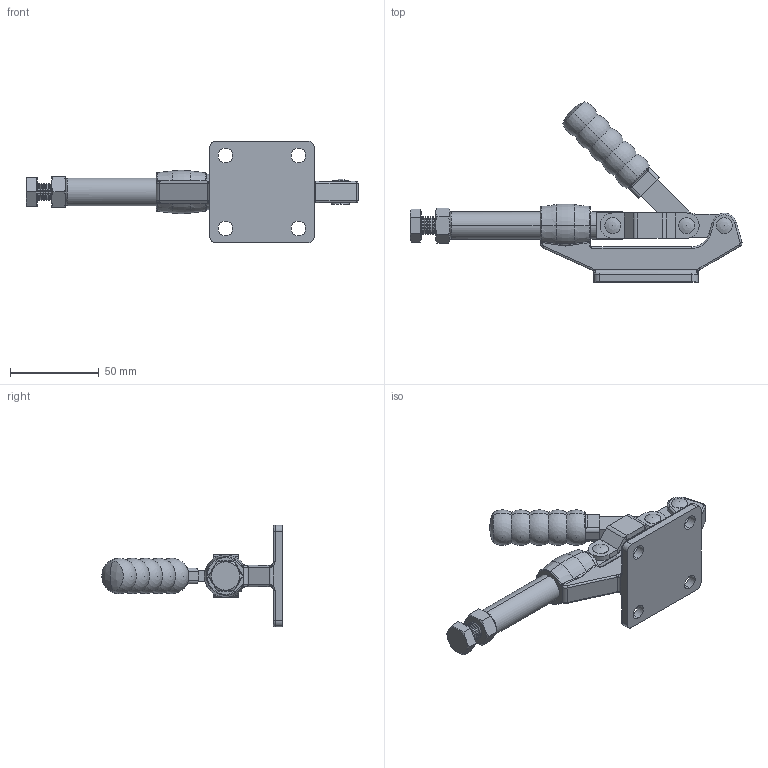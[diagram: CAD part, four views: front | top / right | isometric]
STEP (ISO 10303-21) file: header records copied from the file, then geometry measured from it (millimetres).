
FILE_DESCRIPTION (( 'STEP AP214' ), '1' );
FILE_NAME ('ISK-SL2000-T1.STEP', '2026-02-19T05:34:57', ( '' ), ( '' ), 'SwSTEP 2.0', 'SolidWorks 2026', '' );
FILE_SCHEMA (( 'AUTOMOTIVE_DESIGN' ));
Length unit declared in the file: millimetre
Products named in the file (9): Handle; Rivet_Φ6×12; Grip; Base; continuous thread hexagon head bolt_a_jis_JIS B 1180 Continuous thread hexagon head bolt A M10 x 40 --S; Arm; hexagon nut_2_jis_JIS B 1181 Hexagon nut - Class 2 Finished M10 --N; Link; ISK-SL2000-T1
Assembly tree (11 placements, depth 2):
  ISK-SL2000-T1
    Base
    Arm
    Handle
    Link  x2
    Rivet_Φ6×12  x3
    continuous thread hexagon head bolt_a_jis_JIS B 1180 Continuous thread hexagon head bolt A M10 x 40 --S
    hexagon nut_2_jis_JIS B 1181 Hexagon nut - Class 2 Finished M10 --N
    Grip
Bounding box: 186.9 x 101.48 x 57.2 mm (x, y, z)
Volume: 85487.7 mm3; surface area: 42135.5 mm2
Topology: 11 solids, 11 shells, 560 faces, 1363 edges, 811 vertices
Faces by surface type: cylinder 180, plane 142, cone 140, torus 49, bspline 34, sphere 15
Entity records: 15930 total; most frequent: CARTESIAN_POINT 3835, DIRECTION 2670, ORIENTED_EDGE 2376, EDGE_CURVE 1188, AXIS2_PLACEMENT_3D 1115, VERTEX_POINT 716, CIRCLE 638, EDGE_LOOP 532
